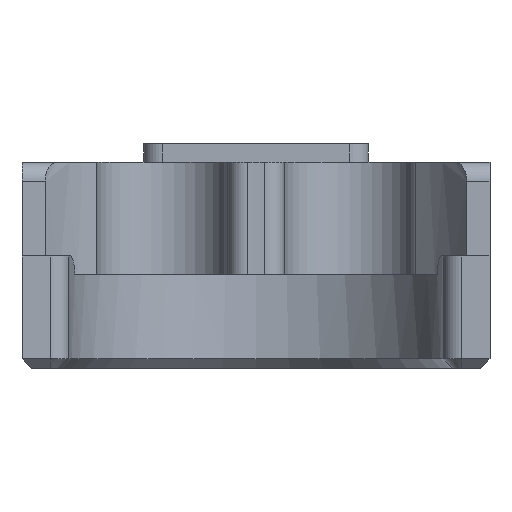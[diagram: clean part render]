
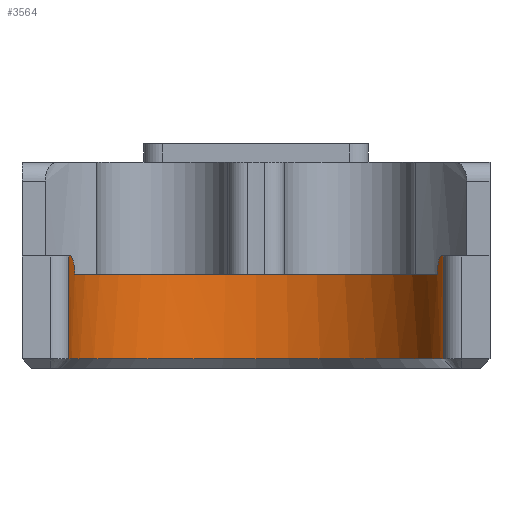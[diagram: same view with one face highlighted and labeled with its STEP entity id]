
A CAD part, front view. The second image highlights one B-rep face of the part: STEP entity #3564.
In plain terms, the highlighted cylindrical face has radius 10 mm (diameter 20 mm), a partial arc.
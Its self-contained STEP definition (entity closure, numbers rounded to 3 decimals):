
#21=CYLINDRICAL_SURFACE($,#3727,10.);
#46=CIRCLE($,#3661,10.);
#74=CIRCLE($,#3725,10.);
#76=CIRCLE($,#3728,10.);
#77=CIRCLE($,#3729,10.);
#334=FACE_OUTER_BOUND($,#539,.T.);
#539=EDGE_LOOP($,(#3161,#3162,#3163,#3164,#3165,#3166,#3167,#3168));
#709=B_SPLINE_CURVE_WITH_KNOTS($,3,(#6541,#6542,#6543,#6544,#6545,#6546,
#6547,#6548,#6549,#6550),.UNSPECIFIED.,.F.,.F.,(4,2,2,2,4),(0.303,
0.341,0.379,0.417,0.455),
 .UNSPECIFIED.);
#710=B_SPLINE_CURVE_WITH_KNOTS($,3,(#6566,#6567,#6568,#6569,#6570,#6571,
#6572,#6573,#6574,#6575),.UNSPECIFIED.,.F.,.F.,(4,2,2,2,4),(0.151,
0.19,0.228,0.266,0.303),
 .UNSPECIFIED.);
#1011=LINE($,#6562,#1344);
#1012=LINE($,#6578,#1345);
#1344=VECTOR($,#4334,5.5);
#1345=VECTOR($,#4339,5.5);
#1629=VERTEX_POINT($,#6314);
#1630=VERTEX_POINT($,#6318);
#1697=VERTEX_POINT($,#6539);
#1698=VERTEX_POINT($,#6540);
#1699=VERTEX_POINT($,#6554);
#1702=VERTEX_POINT($,#6563);
#1703=VERTEX_POINT($,#6565);
#1704=VERTEX_POINT($,#6576);
#2094=EDGE_CURVE($,#1630,#1629,#46,.T.);
#2194=EDGE_CURVE($,#1697,#1698,#709,.T.);
#2197=EDGE_CURVE($,#1698,#1699,#74,.T.);
#2201=EDGE_CURVE($,#1630,#1699,#1011,.T.);
#2202=EDGE_CURVE($,#1697,#1702,#76,.T.);
#2203=EDGE_CURVE($,#1703,#1702,#710,.T.);
#2204=EDGE_CURVE($,#1704,#1703,#77,.T.);
#2205=EDGE_CURVE($,#1629,#1704,#1012,.T.);
#3161=ORIENTED_EDGE($,*,*,#2094,.F.);
#3162=ORIENTED_EDGE($,*,*,#2201,.T.);
#3163=ORIENTED_EDGE($,*,*,#2197,.F.);
#3164=ORIENTED_EDGE($,*,*,#2194,.F.);
#3165=ORIENTED_EDGE($,*,*,#2202,.T.);
#3166=ORIENTED_EDGE($,*,*,#2203,.F.);
#3167=ORIENTED_EDGE($,*,*,#2204,.F.);
#3168=ORIENTED_EDGE($,*,*,#2205,.F.);
#3564=ADVANCED_FACE($,(#334),#21,.F.);
#3661=AXIS2_PLACEMENT_3D($,#6320,#4126,#4127);
#3725=AXIS2_PLACEMENT_3D($,#6555,#4326,#4327);
#3727=AXIS2_PLACEMENT_3D($,#6561,#4332,#4333);
#3728=AXIS2_PLACEMENT_3D($,#6564,#4335,#4336);
#3729=AXIS2_PLACEMENT_3D($,#6577,#4337,#4338);
#4126=DIRECTION('center_axis',(0.,0.,1.));
#4127=DIRECTION('ref_axis',(-1.,0.,0.));
#4326=DIRECTION('center_axis',(0.,0.,-1.));
#4327=DIRECTION('ref_axis',(-1.,0.,0.));
#4332=DIRECTION('center_axis',(0.,0.,1.));
#4333=DIRECTION('ref_axis',(-1.,0.,0.));
#4334=DIRECTION($,(0.,0.,1.));
#4335=DIRECTION('center_axis',(0.,0.,1.));
#4336=DIRECTION('ref_axis',(-1.,0.,0.));
#4337=DIRECTION('center_axis',(0.,0.,-1.));
#4338=DIRECTION('ref_axis',(-1.,0.,0.));
#4339=DIRECTION($,(0.,0.,1.));
#6314=CARTESIAN_POINT('',(-10.,0.,0.5));
#6318=CARTESIAN_POINT('',(10.,0.,0.5));
#6320=CARTESIAN_POINT('Origin',(0.,0.,0.5));
#6539=CARTESIAN_POINT('',(9.682,2.5,5.));
#6540=CARTESIAN_POINT('',(9.887,1.5,6.));
#6541=CARTESIAN_POINT('Ctrl Pts',(9.682,2.5,5.));
#6542=CARTESIAN_POINT('Ctrl Pts',(9.682,2.5,5.126));
#6543=CARTESIAN_POINT('Ctrl Pts',(9.689,2.475,5.259));
#6544=CARTESIAN_POINT('Ctrl Pts',(9.714,2.373,5.505));
#6545=CARTESIAN_POINT('Ctrl Pts',(9.733,2.297,5.616));
#6546=CARTESIAN_POINT('Ctrl Pts',(9.773,2.121,5.794));
#6547=CARTESIAN_POINT('Ctrl Pts',(9.797,2.008,5.872));
#6548=CARTESIAN_POINT('Ctrl Pts',(9.845,1.761,5.975));
#6549=CARTESIAN_POINT('Ctrl Pts',(9.868,1.626,6.));
#6550=CARTESIAN_POINT('Ctrl Pts',(9.887,1.5,6.));
#6554=CARTESIAN_POINT('',(10.,0.,6.));
#6555=CARTESIAN_POINT('Origin',(0.,0.,6.));
#6561=CARTESIAN_POINT('Origin',(0.,0.,0.));
#6562=CARTESIAN_POINT($,(10.,0.,5.));
#6563=CARTESIAN_POINT('',(-9.682,2.5,5.));
#6564=CARTESIAN_POINT('Origin',(0.,0.,5.));
#6565=CARTESIAN_POINT('',(-9.887,1.5,6.));
#6566=CARTESIAN_POINT('Ctrl Pts',(-9.887,1.5,6.));
#6567=CARTESIAN_POINT('Ctrl Pts',(-9.868,1.626,6.));
#6568=CARTESIAN_POINT('Ctrl Pts',(-9.845,1.761,5.975));
#6569=CARTESIAN_POINT('Ctrl Pts',(-9.797,2.008,5.872));
#6570=CARTESIAN_POINT('Ctrl Pts',(-9.773,2.121,5.794));
#6571=CARTESIAN_POINT('Ctrl Pts',(-9.733,2.297,5.616));
#6572=CARTESIAN_POINT('Ctrl Pts',(-9.714,2.373,5.505));
#6573=CARTESIAN_POINT('Ctrl Pts',(-9.689,2.475,5.259));
#6574=CARTESIAN_POINT('Ctrl Pts',(-9.682,2.5,5.126));
#6575=CARTESIAN_POINT('Ctrl Pts',(-9.682,2.5,5.));
#6576=CARTESIAN_POINT('',(-10.,0.,6.));
#6577=CARTESIAN_POINT('Origin',(0.,0.,6.));
#6578=CARTESIAN_POINT($,(-10.,0.,5.));
